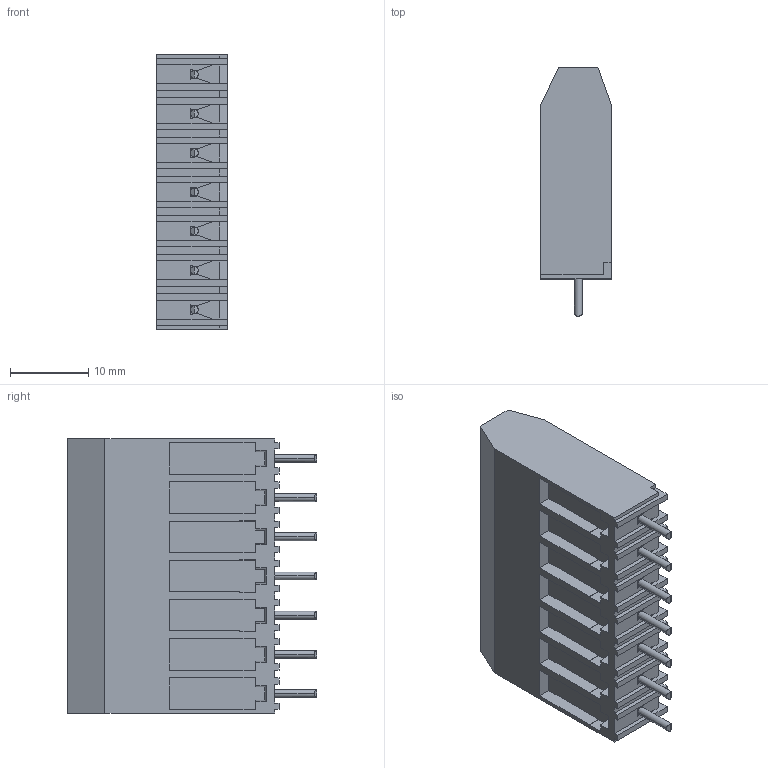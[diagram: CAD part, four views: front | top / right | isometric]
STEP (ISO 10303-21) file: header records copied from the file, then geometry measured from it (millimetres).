
FILE_DESCRIPTION (( 'STEP AP203' ), '1' );
FILE_NAME ('978-HEN-07.STEP', '2017-02-06T18:09:39', ( '' ), ( '' ), 'SwSTEP 2.0', 'SolidWorks 2016', '' );
FILE_SCHEMA (( 'CONFIG_CONTROL_DESIGN' ));
Length unit declared in the file: millimetre
Products named in the file (1): 978-HEN-07
Bounding box: 9 x 31.8 x 35 mm (x, y, z)
Volume: 6632.1 mm3; surface area: 5116.4 mm2
Topology: 1 solids, 1 shells, 976 faces, 2754 edges, 1801 vertices
Faces by surface type: plane 829, cylinder 105, cone 42
Entity records: 31487 total; most frequent: CARTESIAN_POINT 6330, ORIENTED_EDGE 5508, DIRECTION 4792, EDGE_CURVE 2754, VECTOR 2250, LINE 2250, VERTEX_POINT 1801, AXIS2_PLACEMENT_3D 1271
